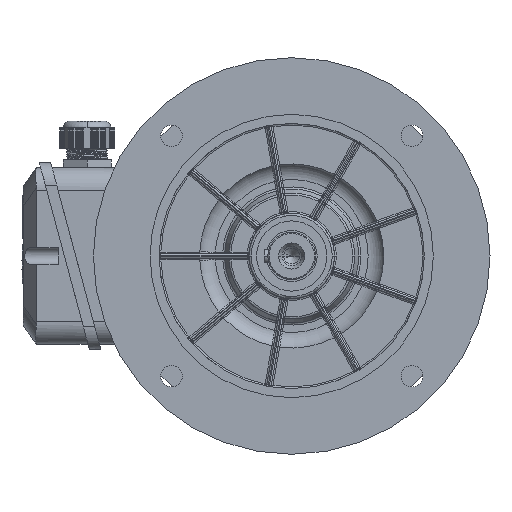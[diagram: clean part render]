
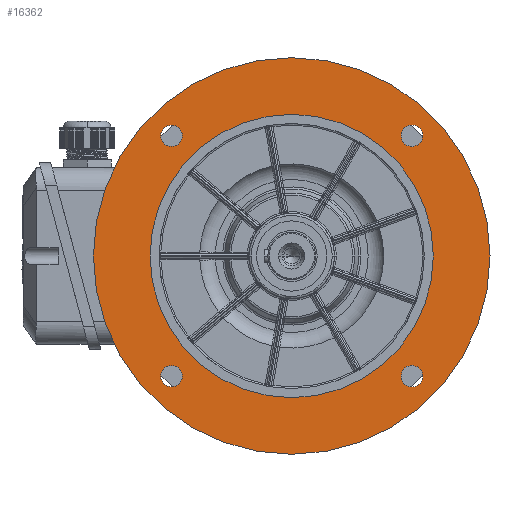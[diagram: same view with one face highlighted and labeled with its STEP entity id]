
A CAD part, left-side view. The second image highlights one B-rep face of the part: STEP entity #16362.
In plain terms, the highlighted planar face has unit normal (-1, 0, 0).
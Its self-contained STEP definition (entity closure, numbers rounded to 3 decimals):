
#191 = CIRCLE ( 'NONE', #45776, 175. ) ;
#2059 = CIRCLE ( 'NONE', #27402, 9.5 ) ;
#2591 = CARTESIAN_POINT ( 'NONE',  ( 110., 175., 0. ) ) ;
#2738 = VERTEX_POINT ( 'NONE', #41012 ) ;
#3034 = PLANE ( 'NONE',  #32927 ) ;
#3242 = CARTESIAN_POINT ( 'NONE',  ( 110., -115.566, -106.066 ) ) ;
#3466 = VERTEX_POINT ( 'NONE', #27061 ) ;
#3612 = CARTESIAN_POINT ( 'NONE',  ( 110., -96.566, 106.066 ) ) ;
#4184 = EDGE_CURVE ( 'NONE', #3466, #58091, #2059, .T. ) ;
#4601 = DIRECTION ( 'NONE',  ( 0., 1., 0. ) ) ;
#5062 = VERTEX_POINT ( 'NONE', #30788 ) ;
#5075 = DIRECTION ( 'NONE',  ( 0., -1., 0. ) ) ;
#5358 = CARTESIAN_POINT ( 'NONE',  ( 110., 106.066, 106.066 ) ) ;
#5724 = CARTESIAN_POINT ( 'NONE',  ( 110., 96.566, -106.066 ) ) ;
#5985 = AXIS2_PLACEMENT_3D ( 'NONE', #62353, #25004, #20279 ) ;
#6021 = EDGE_LOOP ( 'NONE', ( #32592, #41774 ) ) ;
#6307 = VERTEX_POINT ( 'NONE', #47876 ) ;
#8090 = FACE_BOUND ( 'NONE', #12380, .T. ) ;
#8488 = CIRCLE ( 'NONE', #41252, 9.5 ) ;
#8612 = EDGE_CURVE ( 'NONE', #9893, #17236, #67258, .T. ) ;
#9411 = VERTEX_POINT ( 'NONE', #59890 ) ;
#9804 = CARTESIAN_POINT ( 'NONE',  ( 110., 0., 0. ) ) ;
#9893 = VERTEX_POINT ( 'NONE', #32612 ) ;
#11088 = CARTESIAN_POINT ( 'NONE',  ( 110., -115.566, 106.066 ) ) ;
#11423 = FACE_OUTER_BOUND ( 'NONE', #55856, .T. ) ;
#11492 = EDGE_CURVE ( 'NONE', #17236, #9893, #191, .T. ) ;
#11996 = EDGE_LOOP ( 'NONE', ( #14765, #28226 ) ) ;
#12380 = EDGE_LOOP ( 'NONE', ( #37537, #62885 ) ) ;
#13963 = DIRECTION ( 'NONE',  ( 0., 1., 0. ) ) ;
#14523 = CIRCLE ( 'NONE', #41583, 9.5 ) ;
#14532 = DIRECTION ( 'NONE',  ( 0., -1., 0. ) ) ;
#14765 = ORIENTED_EDGE ( 'NONE', *, *, #55879, .F. ) ;
#14793 = FACE_BOUND ( 'NONE', #42515, .T. ) ;
#16013 = ORIENTED_EDGE ( 'NONE', *, *, #47869, .T. ) ;
#16362 = ADVANCED_FACE ( 'NONE', ( #11423, #8090, #66924, #52614, #60113, #14793 ), #3034, .T. ) ;
#17236 = VERTEX_POINT ( 'NONE', #47507 ) ;
#17935 = DIRECTION ( 'NONE',  ( 1., 0., 0. ) ) ;
#19031 = CIRCLE ( 'NONE', #5985, 9.5 ) ;
#19971 = ORIENTED_EDGE ( 'NONE', *, *, #8612, .F. ) ;
#20279 = DIRECTION ( 'NONE',  ( 0., -1., 0. ) ) ;
#21107 = DIRECTION ( 'NONE',  ( -1., 0., 0. ) ) ;
#21245 = DIRECTION ( 'NONE',  ( -1., 0., 0. ) ) ;
#21294 = DIRECTION ( 'NONE',  ( -1., 0., 0. ) ) ;
#23832 = EDGE_CURVE ( 'NONE', #25623, #33435, #68236, .T. ) ;
#24382 = DIRECTION ( 'NONE',  ( -1., 0., 0. ) ) ;
#24515 = DIRECTION ( 'NONE',  ( 1., 0., 0. ) ) ;
#24680 = AXIS2_PLACEMENT_3D ( 'NONE', #69540, #58023, #42309 ) ;
#25004 = DIRECTION ( 'NONE',  ( -1., 0., 0. ) ) ;
#25071 = CIRCLE ( 'NONE', #24680, 9.5 ) ;
#25623 = VERTEX_POINT ( 'NONE', #3612 ) ;
#26212 = DIRECTION ( 'NONE',  ( -1., 0., 0. ) ) ;
#26539 = DIRECTION ( 'NONE',  ( 0., -1., 0. ) ) ;
#27061 = CARTESIAN_POINT ( 'NONE',  ( 110., -96.566, -106.066 ) ) ;
#27402 = AXIS2_PLACEMENT_3D ( 'NONE', #41322, #46727, #14532 ) ;
#28226 = ORIENTED_EDGE ( 'NONE', *, *, #23832, .F. ) ;
#28323 = ORIENTED_EDGE ( 'NONE', *, *, #68782, .F. ) ;
#29211 = EDGE_CURVE ( 'NONE', #67938, #6307, #19031, .T. ) ;
#30254 = CARTESIAN_POINT ( 'NONE',  ( 110., 0., 0. ) ) ;
#30643 = CARTESIAN_POINT ( 'NONE',  ( 110., -106.066, -106.066 ) ) ;
#30788 = CARTESIAN_POINT ( 'NONE',  ( 110., 96.566, 106.066 ) ) ;
#30923 = DIRECTION ( 'NONE',  ( 0., 1., 0. ) ) ;
#31341 = DIRECTION ( 'NONE',  ( -1., 0., 0. ) ) ;
#31773 = AXIS2_PLACEMENT_3D ( 'NONE', #30643, #31341, #47555 ) ;
#32087 = DIRECTION ( 'NONE',  ( 0., -1., 0. ) ) ;
#32190 = CARTESIAN_POINT ( 'NONE',  ( 110., -106.066, 106.066 ) ) ;
#32592 = ORIENTED_EDGE ( 'NONE', *, *, #29211, .F. ) ;
#32612 = CARTESIAN_POINT ( 'NONE',  ( 110., 175., 0. ) ) ;
#32927 = AXIS2_PLACEMENT_3D ( 'NONE', #2591, #24382, #46029 ) ;
#33435 = VERTEX_POINT ( 'NONE', #11088 ) ;
#33537 = ORIENTED_EDGE ( 'NONE', *, *, #11492, .F. ) ;
#34591 = AXIS2_PLACEMENT_3D ( 'NONE', #57181, #24515, #13963 ) ;
#37494 = ORIENTED_EDGE ( 'NONE', *, *, #54716, .T. ) ;
#37537 = ORIENTED_EDGE ( 'NONE', *, *, #64635, .F. ) ;
#41012 = CARTESIAN_POINT ( 'NONE',  ( 110., -125., 0. ) ) ;
#41252 = AXIS2_PLACEMENT_3D ( 'NONE', #5358, #21294, #53511 ) ;
#41322 = CARTESIAN_POINT ( 'NONE',  ( 110., -106.066, -106.066 ) ) ;
#41583 = AXIS2_PLACEMENT_3D ( 'NONE', #43162, #26212, #32087 ) ;
#41774 = ORIENTED_EDGE ( 'NONE', *, *, #61340, .F. ) ;
#42309 = DIRECTION ( 'NONE',  ( 0., -1., 0. ) ) ;
#42515 = EDGE_LOOP ( 'NONE', ( #37494, #16013 ) ) ;
#42668 = CIRCLE ( 'NONE', #52912, 125. ) ;
#43162 = CARTESIAN_POINT ( 'NONE',  ( 110., 106.066, -106.066 ) ) ;
#44618 = ORIENTED_EDGE ( 'NONE', *, *, #62309, .F. ) ;
#45776 = AXIS2_PLACEMENT_3D ( 'NONE', #55313, #17935, #65873 ) ;
#46029 = DIRECTION ( 'NONE',  ( 0., 1., 0. ) ) ;
#46727 = DIRECTION ( 'NONE',  ( -1., 0., 0. ) ) ;
#47017 = AXIS2_PLACEMENT_3D ( 'NONE', #48522, #21245, #5075 ) ;
#47507 = CARTESIAN_POINT ( 'NONE',  ( 110., -175., 0. ) ) ;
#47555 = DIRECTION ( 'NONE',  ( 0., -1., 0. ) ) ;
#47869 = EDGE_CURVE ( 'NONE', #2738, #9411, #42668, .T. ) ;
#47876 = CARTESIAN_POINT ( 'NONE',  ( 110., 115.566, -106.066 ) ) ;
#48522 = CARTESIAN_POINT ( 'NONE',  ( 110., 106.066, 106.066 ) ) ;
#49925 = CARTESIAN_POINT ( 'NONE',  ( 110., 115.566, 106.066 ) ) ;
#50223 = EDGE_LOOP ( 'NONE', ( #44618, #28323 ) ) ;
#52545 = DIRECTION ( 'NONE',  ( 1., 0., 0. ) ) ;
#52614 = FACE_BOUND ( 'NONE', #50223, .T. ) ;
#52912 = AXIS2_PLACEMENT_3D ( 'NONE', #30254, #57501, #30923 ) ;
#52988 = AXIS2_PLACEMENT_3D ( 'NONE', #32190, #21107, #26539 ) ;
#53511 = DIRECTION ( 'NONE',  ( 0., -1., 0. ) ) ;
#54716 = EDGE_CURVE ( 'NONE', #9411, #2738, #67976, .T. ) ;
#55313 = CARTESIAN_POINT ( 'NONE',  ( 110., 0., 0. ) ) ;
#55856 = EDGE_LOOP ( 'NONE', ( #19971, #33537 ) ) ;
#55879 = EDGE_CURVE ( 'NONE', #33435, #25623, #25071, .T. ) ;
#57181 = CARTESIAN_POINT ( 'NONE',  ( 110., 0., 0. ) ) ;
#57501 = DIRECTION ( 'NONE',  ( 1., 0., 0. ) ) ;
#58023 = DIRECTION ( 'NONE',  ( -1., 0., 0. ) ) ;
#58091 = VERTEX_POINT ( 'NONE', #3242 ) ;
#59890 = CARTESIAN_POINT ( 'NONE',  ( 110., 125., 0. ) ) ;
#60113 = FACE_BOUND ( 'NONE', #6021, .T. ) ;
#60117 = VERTEX_POINT ( 'NONE', #49925 ) ;
#61340 = EDGE_CURVE ( 'NONE', #6307, #67938, #14523, .T. ) ;
#61354 = AXIS2_PLACEMENT_3D ( 'NONE', #9804, #52545, #4601 ) ;
#61361 = CIRCLE ( 'NONE', #31773, 9.5 ) ;
#62309 = EDGE_CURVE ( 'NONE', #5062, #60117, #65747, .T. ) ;
#62353 = CARTESIAN_POINT ( 'NONE',  ( 110., 106.066, -106.066 ) ) ;
#62885 = ORIENTED_EDGE ( 'NONE', *, *, #4184, .F. ) ;
#64635 = EDGE_CURVE ( 'NONE', #58091, #3466, #61361, .T. ) ;
#65747 = CIRCLE ( 'NONE', #47017, 9.5 ) ;
#65873 = DIRECTION ( 'NONE',  ( 0., 1., 0. ) ) ;
#66924 = FACE_BOUND ( 'NONE', #11996, .T. ) ;
#67258 = CIRCLE ( 'NONE', #61354, 175. ) ;
#67938 = VERTEX_POINT ( 'NONE', #5724 ) ;
#67976 = CIRCLE ( 'NONE', #34591, 125. ) ;
#68236 = CIRCLE ( 'NONE', #52988, 9.5 ) ;
#68782 = EDGE_CURVE ( 'NONE', #60117, #5062, #8488, .T. ) ;
#69540 = CARTESIAN_POINT ( 'NONE',  ( 110., -106.066, 106.066 ) ) ;
